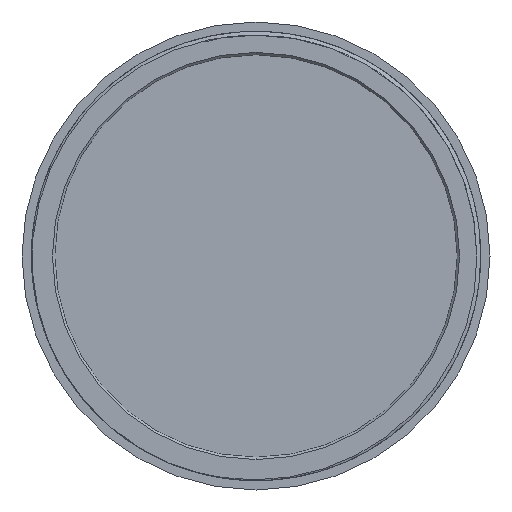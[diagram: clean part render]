
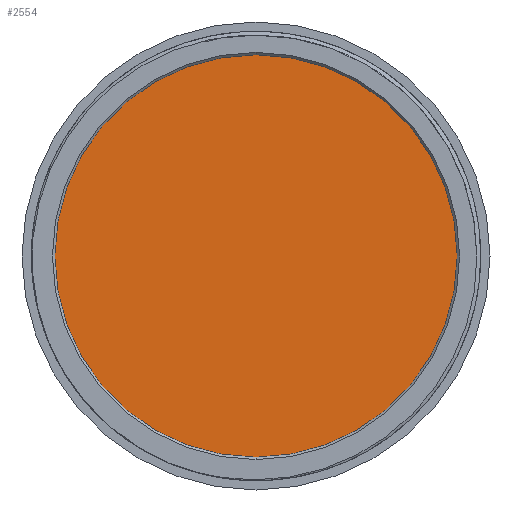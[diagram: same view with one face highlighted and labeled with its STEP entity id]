
A CAD part, front view. The second image highlights one B-rep face of the part: STEP entity #2554.
In plain terms, the highlighted planar face has unit normal (0, -1, 0).
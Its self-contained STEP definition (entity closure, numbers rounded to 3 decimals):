
#121 = CARTESIAN_POINT ( 'NONE',  ( 0., 2.4, 0. ) ) ;
#137 = CARTESIAN_POINT ( 'NONE',  ( 0., 2.4, -22.25 ) ) ;
#182 = CIRCLE ( 'NONE', #943, 22.25 ) ;
#241 = ORIENTED_EDGE ( 'NONE', *, *, #3054, .F. ) ;
#333 = AXIS2_PLACEMENT_3D ( 'NONE', #2882, #1179, #3156 ) ;
#357 = DIRECTION ( 'NONE',  ( 0., 1., 0. ) ) ;
#541 = CARTESIAN_POINT ( 'NONE',  ( 0., 2.4, 0. ) ) ;
#583 = VERTEX_POINT ( 'NONE', #1556 ) ;
#748 = VERTEX_POINT ( 'NONE', #137 ) ;
#836 = EDGE_CURVE ( 'NONE', #748, #583, #930, .T. ) ;
#930 = CIRCLE ( 'NONE', #1755, 22.25 ) ;
#943 = AXIS2_PLACEMENT_3D ( 'NONE', #541, #357, #1090 ) ;
#1027 = DIRECTION ( 'NONE',  ( 0., 1., 0. ) ) ;
#1090 = DIRECTION ( 'NONE',  ( 0., 0., 1. ) ) ;
#1179 = DIRECTION ( 'NONE',  ( 0., 1., 0. ) ) ;
#1212 = PLANE ( 'NONE',  #333 ) ;
#1272 = DIRECTION ( 'NONE',  ( 0., 0., 1. ) ) ;
#1556 = CARTESIAN_POINT ( 'NONE',  ( 0., 2.4, 22.25 ) ) ;
#1557 = EDGE_LOOP ( 'NONE', ( #2542, #241 ) ) ;
#1755 = AXIS2_PLACEMENT_3D ( 'NONE', #121, #1027, #1272 ) ;
#2542 = ORIENTED_EDGE ( 'NONE', *, *, #836, .F. ) ;
#2554 = ADVANCED_FACE ( 'NONE', ( #3111 ), #1212, .F. ) ;
#2882 = CARTESIAN_POINT ( 'NONE',  ( 0., 2.4, 0. ) ) ;
#3054 = EDGE_CURVE ( 'NONE', #583, #748, #182, .T. ) ;
#3111 = FACE_OUTER_BOUND ( 'NONE', #1557, .T. ) ;
#3156 = DIRECTION ( 'NONE',  ( 0., 0., 1. ) ) ;
